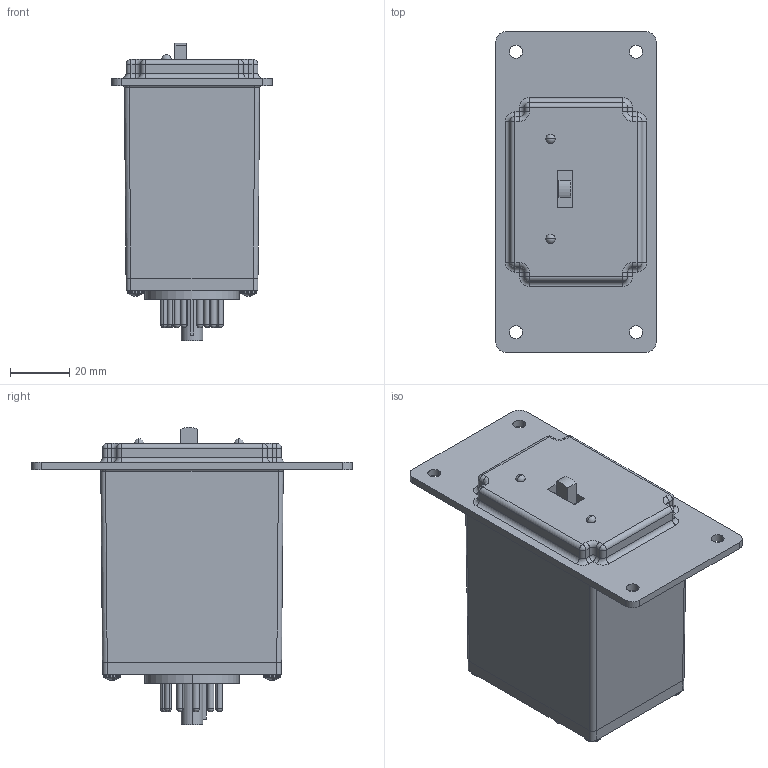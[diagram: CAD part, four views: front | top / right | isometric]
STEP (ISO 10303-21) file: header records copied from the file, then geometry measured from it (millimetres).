
FILE_DESCRIPTION (( 'STEP AP214' ), '1' );
FILE_NAME ('ARF.step', '2019-06-29T21:50:38', ( '' ), ( '' ), 'SwSTEP 2.0', 'SolidWorks 2019', '' );
FILE_SCHEMA (( 'AUTOMOTIVE_DESIGN' ));
Length unit declared in the file: millimetre
Products named in the file (1): ARF
Bounding box: 53.98 x 107.95 x 100.19 mm (x, y, z)
Volume: 222337.5 mm3; surface area: 36126.5 mm2
Topology: 18 solids, 18 shells, 803 faces, 2123 edges, 1356 vertices
Faces by surface type: cylinder 299, plane 241, bspline 137, torus 48, cone 40, sphere 38
Entity records: 43656 total; most frequent: CARTESIAN_POINT 19240, ORIENTED_EDGE 4102, DIRECTION 3048, EDGE_CURVE 2051, VERTEX_POINT 1330, AXIS2_PLACEMENT_3D 1094, EDGE_LOOP 865, VECTOR 860
